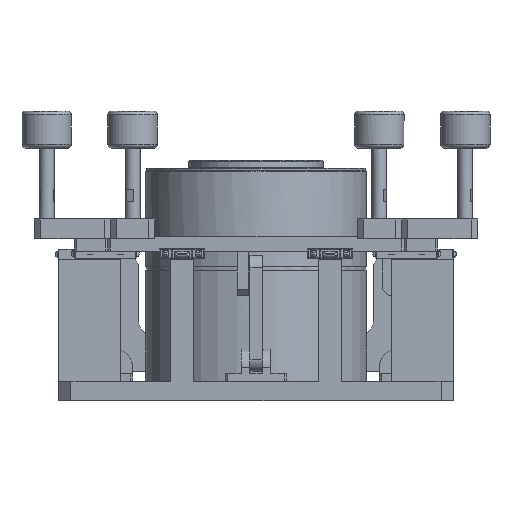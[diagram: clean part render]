
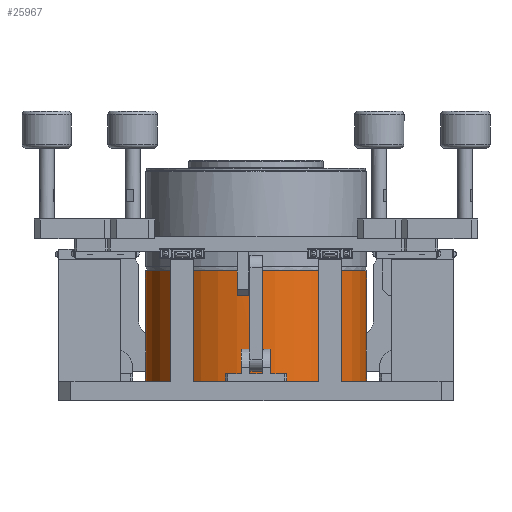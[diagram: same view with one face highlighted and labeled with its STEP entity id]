
A CAD part, left-side view. The second image highlights one B-rep face of the part: STEP entity #25967.
In plain terms, the highlighted cylindrical face has radius 89.6 mm (diameter 179.2 mm), a full revolution.
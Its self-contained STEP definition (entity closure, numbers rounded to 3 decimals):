
#109=ELLIPSE('',#27730,89.6,89.6);
#110=ELLIPSE('',#27731,126.502,89.6);
#111=ELLIPSE('',#27732,126.502,89.6);
#112=ELLIPSE('',#27733,89.6,89.6);
#113=ELLIPSE('',#27734,89.6,89.6);
#114=ELLIPSE('',#27735,126.502,89.6);
#115=ELLIPSE('',#27736,126.502,89.6);
#116=ELLIPSE('',#27737,89.6,89.6);
#498=LINE('',#38298,#3246);
#499=LINE('',#38302,#3247);
#500=LINE('',#38306,#3248);
#501=LINE('',#38310,#3249);
#502=LINE('',#38314,#3250);
#503=LINE('',#38318,#3251);
#504=LINE('',#38322,#3252);
#505=LINE('',#38326,#3253);
#3246=VECTOR('',#30464,10.);
#3247=VECTOR('',#30467,10.);
#3248=VECTOR('',#30470,10.);
#3249=VECTOR('',#30473,10.);
#3250=VECTOR('',#30476,10.);
#3251=VECTOR('',#30479,10.);
#3252=VECTOR('',#30482,10.);
#3253=VECTOR('',#30485,10.);
#5807=CYLINDRICAL_SURFACE('',#27728,89.6);
#6299=FACE_BOUND('',#8491,.T.);
#6300=FACE_BOUND('',#8492,.T.);
#6301=FACE_BOUND('',#8493,.T.);
#6302=FACE_BOUND('',#8494,.T.);
#6303=FACE_BOUND('',#8495,.T.);
#6781=FACE_OUTER_BOUND('',#8490,.T.);
#8490=EDGE_LOOP('',(#17357));
#8491=EDGE_LOOP('',(#17358,#17359,#17360,#17361));
#8492=EDGE_LOOP('',(#17362,#17363,#17364,#17365));
#8493=EDGE_LOOP('',(#17366,#17367,#17368,#17369));
#8494=EDGE_LOOP('',(#17370,#17371,#17372,#17373));
#8495=EDGE_LOOP('',(#17374));
#10591=CIRCLE('',#27678,89.6);
#10618=CIRCLE('',#27729,89.6);
#11263=VERTEX_POINT('',#38010);
#11377=VERTEX_POINT('',#38294);
#11378=VERTEX_POINT('',#38296);
#11379=VERTEX_POINT('',#38297);
#11380=VERTEX_POINT('',#38299);
#11381=VERTEX_POINT('',#38301);
#11382=VERTEX_POINT('',#38304);
#11383=VERTEX_POINT('',#38305);
#11384=VERTEX_POINT('',#38307);
#11385=VERTEX_POINT('',#38309);
#11386=VERTEX_POINT('',#38312);
#11387=VERTEX_POINT('',#38313);
#11388=VERTEX_POINT('',#38315);
#11389=VERTEX_POINT('',#38317);
#11390=VERTEX_POINT('',#38320);
#11391=VERTEX_POINT('',#38321);
#11392=VERTEX_POINT('',#38323);
#11393=VERTEX_POINT('',#38325);
#13605=EDGE_CURVE('',#11263,#11263,#10591,.T.);
#13751=EDGE_CURVE('',#11377,#11377,#10618,.T.);
#13752=EDGE_CURVE('',#11378,#11379,#498,.T.);
#13753=EDGE_CURVE('',#11380,#11378,#109,.T.);
#13754=EDGE_CURVE('',#11381,#11380,#499,.T.);
#13755=EDGE_CURVE('',#11379,#11381,#110,.T.);
#13756=EDGE_CURVE('',#11382,#11383,#500,.T.);
#13757=EDGE_CURVE('',#11384,#11382,#111,.T.);
#13758=EDGE_CURVE('',#11385,#11384,#501,.T.);
#13759=EDGE_CURVE('',#11383,#11385,#112,.T.);
#13760=EDGE_CURVE('',#11386,#11387,#502,.T.);
#13761=EDGE_CURVE('',#11388,#11386,#113,.T.);
#13762=EDGE_CURVE('',#11389,#11388,#503,.T.);
#13763=EDGE_CURVE('',#11387,#11389,#114,.T.);
#13764=EDGE_CURVE('',#11390,#11391,#504,.T.);
#13765=EDGE_CURVE('',#11392,#11390,#115,.T.);
#13766=EDGE_CURVE('',#11393,#11392,#505,.T.);
#13767=EDGE_CURVE('',#11391,#11393,#116,.T.);
#17357=ORIENTED_EDGE('',*,*,#13751,.T.);
#17358=ORIENTED_EDGE('',*,*,#13752,.F.);
#17359=ORIENTED_EDGE('',*,*,#13753,.F.);
#17360=ORIENTED_EDGE('',*,*,#13754,.F.);
#17361=ORIENTED_EDGE('',*,*,#13755,.F.);
#17362=ORIENTED_EDGE('',*,*,#13756,.F.);
#17363=ORIENTED_EDGE('',*,*,#13757,.F.);
#17364=ORIENTED_EDGE('',*,*,#13758,.F.);
#17365=ORIENTED_EDGE('',*,*,#13759,.F.);
#17366=ORIENTED_EDGE('',*,*,#13760,.F.);
#17367=ORIENTED_EDGE('',*,*,#13761,.F.);
#17368=ORIENTED_EDGE('',*,*,#13762,.F.);
#17369=ORIENTED_EDGE('',*,*,#13763,.F.);
#17370=ORIENTED_EDGE('',*,*,#13764,.F.);
#17371=ORIENTED_EDGE('',*,*,#13765,.F.);
#17372=ORIENTED_EDGE('',*,*,#13766,.F.);
#17373=ORIENTED_EDGE('',*,*,#13767,.F.);
#17374=ORIENTED_EDGE('',*,*,#13605,.F.);
#25967=ADVANCED_FACE('',(#6781,#6299,#6300,#6301,#6302,#6303),#5807,.T.);
#27678=AXIS2_PLACEMENT_3D('',#38011,#30241,#30242);
#27728=AXIS2_PLACEMENT_3D('',#38293,#30460,#30461);
#27729=AXIS2_PLACEMENT_3D('',#38295,#30462,#30463);
#27730=AXIS2_PLACEMENT_3D('',#38300,#30465,#30466);
#27731=AXIS2_PLACEMENT_3D('',#38303,#30468,#30469);
#27732=AXIS2_PLACEMENT_3D('',#38308,#30471,#30472);
#27733=AXIS2_PLACEMENT_3D('',#38311,#30474,#30475);
#27734=AXIS2_PLACEMENT_3D('',#38316,#30477,#30478);
#27735=AXIS2_PLACEMENT_3D('',#38319,#30480,#30481);
#27736=AXIS2_PLACEMENT_3D('',#38324,#30483,#30484);
#27737=AXIS2_PLACEMENT_3D('',#38327,#30486,#30487);
#30241=DIRECTION('center_axis',(0.,0.,-1.));
#30242=DIRECTION('ref_axis',(-1.,0.,0.));
#30460=DIRECTION('center_axis',(0.,0.,1.));
#30461=DIRECTION('ref_axis',(1.,0.,0.));
#30462=DIRECTION('center_axis',(0.,0.,-1.));
#30463=DIRECTION('ref_axis',(1.,0.,0.));
#30464=DIRECTION('',(0.,0.,1.));
#30465=DIRECTION('center_axis',(0.,-0.002,
1.));
#30466=DIRECTION('ref_axis',(0.,1.,0.002));
#30467=DIRECTION('',(0.,0.,-1.));
#30468=DIRECTION('center_axis',(0.,-0.706,
-0.708));
#30469=DIRECTION('ref_axis',(0.,0.708,-0.706));
#30470=DIRECTION('',(0.,0.,-1.));
#30471=DIRECTION('center_axis',(-0.706,0.,
-0.708));
#30472=DIRECTION('ref_axis',(0.708,0.,-0.706));
#30473=DIRECTION('',(0.,0.,1.));
#30474=DIRECTION('center_axis',(-0.002,0.,
1.));
#30475=DIRECTION('ref_axis',(1.,0.,0.002));
#30476=DIRECTION('',(0.,0.,1.));
#30477=DIRECTION('center_axis',(0.,0.002,
1.));
#30478=DIRECTION('ref_axis',(0.,1.,-0.002));
#30479=DIRECTION('',(0.,0.,-1.));
#30480=DIRECTION('center_axis',(0.,0.706,
-0.708));
#30481=DIRECTION('ref_axis',(0.,0.708,0.706));
#30482=DIRECTION('',(0.,0.,-1.));
#30483=DIRECTION('center_axis',(0.706,0.,
-0.708));
#30484=DIRECTION('ref_axis',(0.708,0.,0.706));
#30485=DIRECTION('',(0.,0.,1.));
#30486=DIRECTION('center_axis',(0.002,0.,
1.));
#30487=DIRECTION('ref_axis',(1.,0.,-0.002));
#38010=CARTESIAN_POINT('',(-37.034,81.137,8.));
#38011=CARTESIAN_POINT('Origin',(-126.634,81.137,8.));
#38293=CARTESIAN_POINT('Origin',(-126.634,81.137,-8.));
#38294=CARTESIAN_POINT('',(-216.234,81.137,97.4));
#38295=CARTESIAN_POINT('Origin',(-126.634,81.137,97.4));
#38296=CARTESIAN_POINT('',(-121.734,-8.329,16.043));
#38297=CARTESIAN_POINT('',(-121.734,-8.329,46.471));
#38298=CARTESIAN_POINT('',(-121.734,-8.329,-8.));
#38299=CARTESIAN_POINT('',(-131.734,-8.318,16.043));
#38300=CARTESIAN_POINT('Origin',(-126.634,81.137,16.192));
#38301=CARTESIAN_POINT('',(-131.734,-8.318,46.46));
#38302=CARTESIAN_POINT('',(-131.734,-8.318,-8.));
#38303=CARTESIAN_POINT('Origin',(-126.634,81.137,-42.696));
#38304=CARTESIAN_POINT('',(-216.1,86.037,46.471));
#38305=CARTESIAN_POINT('',(-216.1,86.037,16.043));
#38306=CARTESIAN_POINT('',(-216.1,86.037,-8.));
#38307=CARTESIAN_POINT('',(-216.089,76.037,46.46));
#38308=CARTESIAN_POINT('Origin',(-126.634,81.137,-42.696));
#38309=CARTESIAN_POINT('',(-216.089,76.037,16.043));
#38310=CARTESIAN_POINT('',(-216.089,76.037,-8.));
#38311=CARTESIAN_POINT('Origin',(-126.634,81.137,16.192));
#38312=CARTESIAN_POINT('',(-131.534,170.603,16.043));
#38313=CARTESIAN_POINT('',(-131.534,170.603,46.471));
#38314=CARTESIAN_POINT('',(-131.534,170.603,-8.));
#38315=CARTESIAN_POINT('',(-121.534,170.592,16.043));
#38316=CARTESIAN_POINT('Origin',(-126.634,81.137,16.192));
#38317=CARTESIAN_POINT('',(-121.534,170.592,46.46));
#38318=CARTESIAN_POINT('',(-121.534,170.592,-8.));
#38319=CARTESIAN_POINT('Origin',(-126.634,81.137,-42.696));
#38320=CARTESIAN_POINT('',(-37.168,76.237,46.471));
#38321=CARTESIAN_POINT('',(-37.168,76.237,16.043));
#38322=CARTESIAN_POINT('',(-37.168,76.237,-8.));
#38323=CARTESIAN_POINT('',(-37.179,86.237,46.46));
#38324=CARTESIAN_POINT('Origin',(-126.634,81.137,-42.696));
#38325=CARTESIAN_POINT('',(-37.179,86.237,16.043));
#38326=CARTESIAN_POINT('',(-37.179,86.237,-8.));
#38327=CARTESIAN_POINT('Origin',(-126.634,81.137,16.192));
